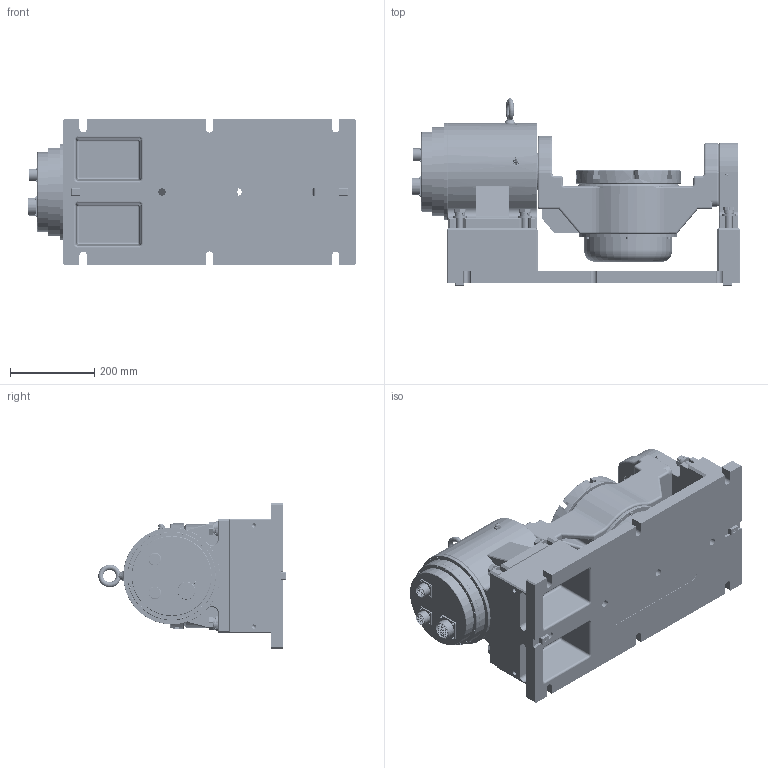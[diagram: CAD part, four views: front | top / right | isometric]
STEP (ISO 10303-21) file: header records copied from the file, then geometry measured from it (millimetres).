
FILE_DESCRIPTION (( 'STEP AP214' ), '1' );
FILE_NAME ('KFR-250FEDF 軞蚾饜芞.STEP', '2022-09-28T05:30:28', ( 'Admin' ), ( '' ), 'SwSTEP 2.0', 'SolidWorks 2020', '' );
FILE_SCHEMA (( 'AUTOMOTIVE_DESIGN' ));
Length unit declared in the file: millimetre
Products named in the file (1): KFR-250FEDF 軞蚾饜芞
Bounding box: 778.05 x 445.5 x 345 mm (x, y, z)
Volume: 28930947.3 mm3; surface area: 3685866.8 mm2
Topology: 209 solids, 209 shells, 7309 faces, 16812 edges, 10096 vertices
Faces by surface type: plane 2545, cylinder 2437, cone 1243, torus 709, sphere 226, bspline 149
Entity records: 305862 total; most frequent: CARTESIAN_POINT 57420, DIRECTION 36818, ORIENTED_EDGE 32860, EDGE_CURVE 16430, AXIS2_PLACEMENT_3D 14613, VERTEX_POINT 10088, EDGE_LOOP 8402, LINE 7592
